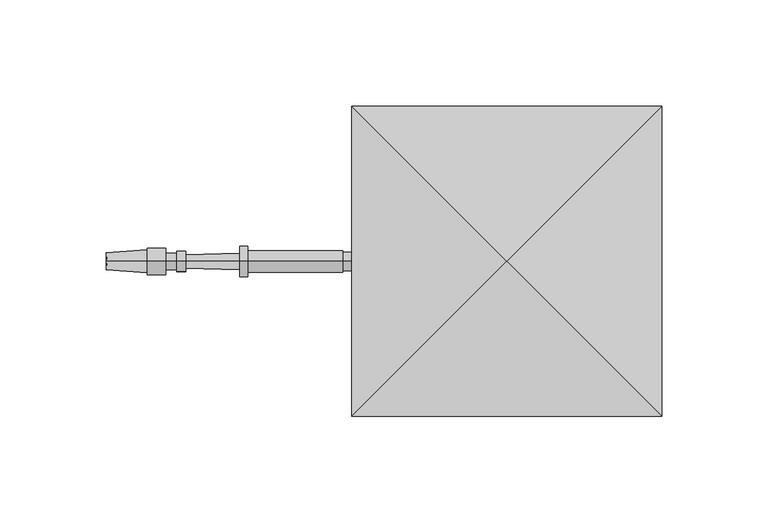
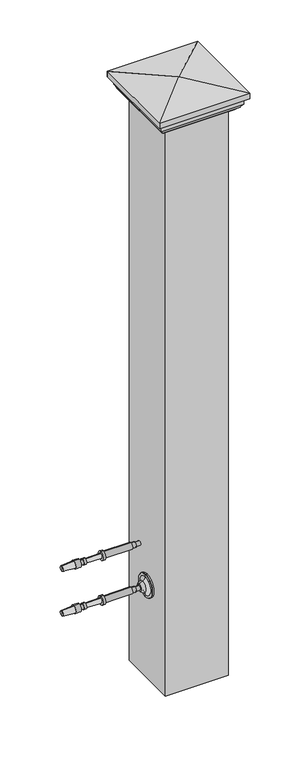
"""IFC4 building model written with IfcOpenShell, lengths in millimetres: railing geometry, RAILEASY CABLE RAILING CORNER TENSIONERS STAIR."""

from ifc_helpers import new_model, si_unit, point, frame, origin, place, context, project, spatial, polyline, circle_curve, ellipse_curve, trimmed, outline, extrude, source, transform, mapped, element, save
from ifc_brep_helpers import plane_surface, cylinder_surface, revolved_surface, advanced_brep


def railing_984af080(model_context):
    return source(origin(), model_context, "Body", "SolidModel", [
        advanced_brep(
        [(4032.408954, 16706.2866843, 32759.0282881), (4032.408954, 16706.2866843, 32762.6001631), (4032.408954, 16706.2866843, 32766.1720381), (3907.4650648, 16706.2866843, 32762.6001631), (3907.1694004, 16706.2866843, 32758.5757028), (3907.1694004, 16706.2866843, 32766.6246235), (3926.5127644, 16706.2866843, 32757.1546072), (3926.5127644, 16706.2866843, 32768.045719), (3926.5127644, 16706.2866843, 32756.2616385), (3926.5127644, 16706.2866843, 32768.9386877), (3935.1447956, 16706.2866843, 32756.2616385), (3935.1447956, 16706.2866843, 32768.9386877), (3935.1447956, 16706.2866843, 32758.6428885), (3935.1447956, 16706.2866843, 32766.5574377), (3940.5026081, 16706.2866843, 32758.6428885), (3940.5026081, 16706.2866843, 32766.5574377), (3940.5026081, 16706.2866843, 32757.8491385), (3940.5026081, 16706.2866843, 32767.3511877), (3944.5705769, 16706.2866843, 32757.8491385), (3944.5705769, 16706.2866843, 32767.3511877), (3944.614664, 16706.2866843, 32759.4360262), (3944.614664, 16706.2866843, 32765.7643), (3970.0048672, 16706.2866843, 32758.7306319), (3970.0048672, 16706.2866843, 32766.4696944), (3970.0048672, 16706.2866843, 32755.4564131), (3970.0048672, 16706.2866843, 32769.7439131), (3973.9736172, 16706.2866843, 32755.4564131), (3973.9736172, 16706.2866843, 32769.7439131), (3973.9736172, 16706.2866843, 32757.4407881), (3973.9736172, 16706.2866843, 32767.7595381), (4018.7212735, 16706.2866843, 32757.4407881), (4018.7212735, 16706.2866843, 32767.7595381), (4018.7212735, 16706.2866843, 32758.2345381), (4018.7212735, 16706.2866843, 32766.9657881), (4025.0712735, 16706.2866843, 32758.2345381), (4025.0712735, 16706.2866843, 32766.9657881), (4025.0712735, 16706.2866843, 32759.0282881), (4025.0712735, 16706.2866843, 32766.1720381)],
        [
            (0, 1),
            (1, 2),
            (2, 0, circle_curve(frame((4032.408954, 16706.2866843, 32762.6001631), z_axis=(1.0, 0.0, 0.0), x_axis=(0.0, 0.0, 1.0000000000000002)), 3.571875)),
            (0, 2, circle_curve(frame((4032.408954, 16706.2866843, 32762.6001631), z_axis=(1.0, 0.0, 0.0), x_axis=(0.0, 0.0, 1.0000000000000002)), 3.571875)),
            (3, 4),
            (4, 5, circle_curve(frame((3907.1694004, 16706.2866843, 32762.6001631), z_axis=(-1.0, 0.0, 0.0), x_axis=(0.0, 0.0, 1.0000000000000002)), 4.0244604)),
            (5, 3),
            (5, 4, circle_curve(frame((3907.1694004, 16706.2866843, 32762.6001631), z_axis=(-1.0, 0.0, 0.0), x_axis=(0.0, 0.0, 1.0000000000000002)), 4.0244604)),
            (4, 6),
            (6, 7, circle_curve(frame((3926.5127644, 16706.2866843, 32762.6001631), z_axis=(-1.0, 0.0, 0.0), x_axis=(0.0, 0.0, 1.0000000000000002)), 5.4455559)),
            (7, 5),
            (7, 6, circle_curve(frame((3926.5127644, 16706.2866843, 32762.6001631), z_axis=(-1.0, 0.0, 0.0), x_axis=(0.0, 0.0, 1.0000000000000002)), 5.4455559)),
            (6, 8),
            (8, 9, circle_curve(frame((3926.5127644, 16706.2866843, 32762.6001631), z_axis=(-1.0, 0.0, 0.0), x_axis=(0.0, 0.0, 1.0000000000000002)), 6.3385246)),
            (9, 7),
            (9, 8, circle_curve(frame((3926.5127644, 16706.2866843, 32762.6001631), z_axis=(-1.0, 0.0, 0.0), x_axis=(0.0, 0.0, 1.0000000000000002)), 6.3385246)),
            (8, 10),
            (10, 11, circle_curve(frame((3935.1447956, 16706.2866843, 32762.6001631), z_axis=(-1.0, 0.0, 0.0), x_axis=(0.0, 0.0, 1.0000000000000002)), 6.3385246)),
            (11, 9),
            (11, 10, circle_curve(frame((3935.1447956, 16706.2866843, 32762.6001631), z_axis=(-1.0, 0.0, 0.0), x_axis=(0.0, 0.0, 1.0000000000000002)), 6.3385246)),
            (10, 12),
            (12, 13, circle_curve(frame((3935.1447956, 16706.2866843, 32762.6001631), z_axis=(-1.0, 0.0, 0.0), x_axis=(0.0, 0.0, 1.0000000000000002)), 3.9572746)),
            (13, 11),
            (13, 12, circle_curve(frame((3935.1447956, 16706.2866843, 32762.6001631), z_axis=(-1.0, 0.0, 0.0), x_axis=(0.0, 0.0, 1.0000000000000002)), 3.9572746)),
            (12, 14),
            (14, 15, circle_curve(frame((3940.5026081, 16706.2866843, 32762.6001631), z_axis=(-1.0, 0.0, 0.0), x_axis=(0.0, 0.0, 1.0000000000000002)), 3.9572746)),
            (15, 13),
            (15, 14, circle_curve(frame((3940.5026081, 16706.2866843, 32762.6001631), z_axis=(-1.0, 0.0, 0.0), x_axis=(0.0, 0.0, 1.0000000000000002)), 3.9572746)),
            (14, 16),
            (16, 17, circle_curve(frame((3940.5026081, 16706.2866843, 32762.6001631), z_axis=(-1.0, 0.0, 0.0), x_axis=(0.0, 0.0, 1.0000000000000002)), 4.7510246)),
            (17, 15),
            (17, 16, circle_curve(frame((3940.5026081, 16706.2866843, 32762.6001631), z_axis=(-1.0, 0.0, 0.0), x_axis=(0.0, 0.0, 1.0000000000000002)), 4.7510246)),
            (16, 18),
            (18, 19, circle_curve(frame((3944.5705769, 16706.2866843, 32762.6001631), z_axis=(-1.0, 0.0, 0.0), x_axis=(0.0, 0.0, 1.0000000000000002)), 4.7510246)),
            (19, 17),
            (19, 18, circle_curve(frame((3944.5705769, 16706.2866843, 32762.6001631), z_axis=(-1.0, 0.0, 0.0), x_axis=(0.0, 0.0, 1.0000000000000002)), 4.7510246)),
            (18, 20),
            (20, 21, circle_curve(frame((3944.614664, 16706.2866843, 32762.6001631), z_axis=(-1.0, 0.0, 0.0), x_axis=(0.0, 0.0, 1.0000000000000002)), 3.1641369)),
            (21, 19),
            (21, 20, circle_curve(frame((3944.614664, 16706.2866843, 32762.6001631), z_axis=(-1.0, 0.0, 0.0), x_axis=(0.0, 0.0, 1.0000000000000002)), 3.1641369)),
            (20, 22),
            (22, 23, circle_curve(frame((3970.0048672, 16706.2866843, 32762.6001631), z_axis=(-1.0, 0.0, 0.0), x_axis=(0.0, 0.0, 1.0000000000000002)), 3.8695313)),
            (23, 21),
            (23, 22, circle_curve(frame((3970.0048672, 16706.2866843, 32762.6001631), z_axis=(-1.0, 0.0, 0.0), x_axis=(0.0, 0.0, 1.0000000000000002)), 3.8695313)),
            (22, 24),
            (24, 25, circle_curve(frame((3970.0048672, 16706.2866843, 32762.6001631), z_axis=(-1.0, 0.0, 0.0), x_axis=(0.0, 0.0, 1.0000000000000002)), 7.14375)),
            (25, 23),
            (25, 24, circle_curve(frame((3970.0048672, 16706.2866843, 32762.6001631), z_axis=(-1.0, 0.0, 0.0), x_axis=(0.0, 0.0, 1.0000000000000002)), 7.14375)),
            (24, 26),
            (26, 27, circle_curve(frame((3973.9736172, 16706.2866843, 32762.6001631), z_axis=(-1.0, 0.0, 0.0), x_axis=(0.0, 0.0, 1.0000000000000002)), 7.14375)),
            (27, 25),
            (27, 26, circle_curve(frame((3973.9736172, 16706.2866843, 32762.6001631), z_axis=(-1.0, 0.0, 0.0), x_axis=(0.0, 0.0, 1.0000000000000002)), 7.14375)),
            (26, 28),
            (28, 29, circle_curve(frame((3973.9736172, 16706.2866843, 32762.6001631), z_axis=(-1.0, 0.0, 0.0), x_axis=(0.0, 0.0, 1.0000000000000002)), 5.159375)),
            (29, 27),
            (29, 28, circle_curve(frame((3973.9736172, 16706.2866843, 32762.6001631), z_axis=(-1.0, 0.0, 0.0), x_axis=(0.0, 0.0, 1.0000000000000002)), 5.159375)),
            (28, 30),
            (30, 31, circle_curve(frame((4018.7212735, 16706.2866843, 32762.6001631), z_axis=(-1.0, 0.0, 0.0), x_axis=(0.0, 0.0, 1.0000000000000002)), 5.159375)),
            (31, 29),
            (31, 30, circle_curve(frame((4018.7212735, 16706.2866843, 32762.6001631), z_axis=(-1.0, 0.0, 0.0), x_axis=(0.0, 0.0, 1.0000000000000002)), 5.159375)),
            (30, 32),
            (32, 33, circle_curve(frame((4018.7212735, 16706.2866843, 32762.6001631), z_axis=(-1.0, 0.0, 0.0), x_axis=(0.0, 0.0, 1.0000000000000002)), 4.365625)),
            (33, 31),
            (33, 32, circle_curve(frame((4018.7212735, 16706.2866843, 32762.6001631), z_axis=(-1.0, 0.0, 0.0), x_axis=(0.0, 0.0, 1.0000000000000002)), 4.365625)),
            (32, 34),
            (34, 35, circle_curve(frame((4025.0712735, 16706.2866843, 32762.6001631), z_axis=(-1.0, 0.0, 0.0), x_axis=(0.0, 0.0, 1.0000000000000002)), 4.365625)),
            (35, 33),
            (35, 34, circle_curve(frame((4025.0712735, 16706.2866843, 32762.6001631), z_axis=(-1.0, 0.0, 0.0), x_axis=(0.0, 0.0, 1.0000000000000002)), 4.365625)),
            (34, 36),
            (36, 37, circle_curve(frame((4025.0712735, 16706.2866843, 32762.6001631), z_axis=(-1.0, 0.0, 0.0), x_axis=(0.0, 0.0, 1.0000000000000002)), 3.571875)),
            (37, 35),
            (37, 36, circle_curve(frame((4025.0712735, 16706.2866843, 32762.6001631), z_axis=(-1.0, 0.0, 0.0), x_axis=(0.0, 0.0, 1.0000000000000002)), 3.571875)),
            (36, 0),
            (2, 37),
        ],
        [
            plane_surface(frame((4032.408954, 16706.2866843, 32762.6001631), z_axis=(1.0, 0.0, 0.0), x_axis=(0.0, 0.0, 1.0))),
            revolved_surface(polyline([(3907.1694004, 16706.2866843, 32766.6246235), (3907.4650648, 16706.2866843, 32762.6001631)]), (3907.4650648, 16706.2866843, 32762.6001631), (-1.0, 0.0, 0.0)),
            revolved_surface(polyline([(3926.5127644, 16706.2866843, 32768.045719), (3907.1694004, 16706.2866843, 32766.6246235)]), (3907.4650648, 16706.2866843, 32762.6001631), (-1.0, 0.0, 0.0)),
            plane_surface(frame((3926.5127644, 16706.2866843, 32762.6001631), z_axis=(-1.0, 0.0, 0.0), x_axis=(0.0, 0.0, 1.0))),
            cylinder_surface(frame((3907.4650648, 16706.2866843, 32762.6001631), z_axis=(-1.0, 0.0, 0.0), x_axis=(0.0, 0.0, 1.0000000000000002)), 6.3385246),
            plane_surface(frame((3935.1447956, 16706.2866843, 32762.6001631), z_axis=(1.0, 0.0, 0.0), x_axis=(0.0, 0.0, 1.0))),
            cylinder_surface(frame((3907.4650648, 16706.2866843, 32762.6001631), z_axis=(-1.0, 0.0, 0.0), x_axis=(0.0, 0.0, 1.0000000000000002)), 3.9572746),
            plane_surface(frame((3940.5026081, 16706.2866843, 32762.6001631), z_axis=(-1.0, 0.0, 0.0), x_axis=(0.0, 0.0, 1.0))),
            cylinder_surface(frame((3907.4650648, 16706.2866843, 32762.6001631), z_axis=(-1.0, 0.0, 0.0), x_axis=(0.0, 0.0, 1.0000000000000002)), 4.7510246),
            plane_surface(frame((3944.614664, 16706.2866843, 32762.6001631), z_axis=(1.0, 0.0, 0.0), x_axis=(0.0, 0.0, 1.0))),
            revolved_surface(polyline([(3970.0048672, 16706.2866843, 32766.4696944), (3944.614664, 16706.2866843, 32765.7643)]), (3907.4650648, 16706.2866843, 32762.6001631), (-1.0, 0.0, 0.0)),
            plane_surface(frame((3970.0048672, 16706.2866843, 32762.6001631), z_axis=(-1.0, 0.0, 0.0), x_axis=(0.0, 0.0, 1.0))),
            cylinder_surface(frame((3907.4650648, 16706.2866843, 32762.6001631), z_axis=(-1.0, 0.0, 0.0), x_axis=(0.0, 0.0, 1.0000000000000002)), 7.14375),
            plane_surface(frame((3973.9736172, 16706.2866843, 32762.6001631), z_axis=(1.0, 0.0, 0.0), x_axis=(0.0, 0.0, 1.0))),
            cylinder_surface(frame((3907.4650648, 16706.2866843, 32762.6001631), z_axis=(-1.0, 0.0, 0.0), x_axis=(0.0, 0.0, 1.0000000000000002)), 5.159375),
            plane_surface(frame((4018.7212735, 16706.2866843, 32762.6001631), z_axis=(1.0, 0.0, 0.0), x_axis=(0.0, 0.0, 1.0))),
            cylinder_surface(frame((3907.4650648, 16706.2866843, 32762.6001631), z_axis=(-1.0, 0.0, 0.0), x_axis=(0.0, 0.0, 1.0000000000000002)), 4.365625),
            plane_surface(frame((4025.0712735, 16706.2866843, 32762.6001631), z_axis=(1.0, 0.0, 0.0), x_axis=(0.0, 0.0, 1.0))),
            cylinder_surface(frame((3907.4650648, 16706.2866843, 32762.6001631), z_axis=(-1.0, 0.0, 0.0), x_axis=(0.0, 0.0, 1.0000000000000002)), 3.571875),
        ],
        [
            (0, [[1, 2, 3]]),
            (0, [[-2, -1, 4]]),
            (1, [[5, 6, 7]]),
            (1, [[-7, 8, -5]]),
            (2, [[9, 10, 11, -6]]),
            (2, [[-11, 12, -9, -8]]),
            (3, [[13, 14, 15, -10]]),
            (3, [[-15, 16, -13, -12]]),
            (4, [[17, 18, 19, -14]]),
            (4, [[-19, 20, -17, -16]]),
            (5, [[21, 22, 23, -18]]),
            (5, [[-23, 24, -21, -20]]),
            (6, [[25, 26, 27, -22]]),
            (6, [[-27, 28, -25, -24]]),
            (7, [[29, 30, 31, -26]]),
            (7, [[-31, 32, -29, -28]]),
            (8, [[33, 34, 35, -30]]),
            (8, [[-35, 36, -33, -32]]),
            (9, [[37, 38, 39, -34]]),
            (9, [[-39, 40, -37, -36]]),
            (10, [[41, 42, 43, -38]]),
            (10, [[-43, 44, -41, -40]]),
            (11, [[45, 46, 47, -42]]),
            (11, [[-47, 48, -45, -44]]),
            (12, [[49, 50, 51, -46]]),
            (12, [[-51, 52, -49, -48]]),
            (13, [[53, 54, 55, -50]]),
            (13, [[-55, 56, -53, -52]]),
            (14, [[57, 58, 59, -54]]),
            (14, [[-59, 60, -57, -56]]),
            (15, [[61, 62, 63, -58]]),
            (15, [[-63, 64, -61, -60]]),
            (16, [[65, 66, 67, -62]]),
            (16, [[-67, 68, -65, -64]]),
            (17, [[69, 70, 71, -66]]),
            (17, [[-71, 72, -69, -68]]),
            (18, [[73, -3, 74, -70]]),
            (18, [[-74, -4, -73, -72]]),
        ],
    ),
        advanced_brep(
        [(4045.1015906, 16706.2866843, 32686.4001631), (4045.1015906, 16706.2866843, 32705.4501631), (4045.1015906, 16706.2866843, 32667.3501631), (4032.408954, 16706.2866843, 32680.8769785), (4032.408954, 16706.2866843, 32691.9233478), (4032.408954, 16706.2866843, 32686.4001631), (4037.6850504, 16706.2866843, 32677.2720381), (4037.6850504, 16706.2866843, 32695.5282881), (4042.0506754, 16706.2866843, 32671.6458254), (4042.0506754, 16706.2866843, 32701.1545009), (4042.0506754, 16706.2866843, 32667.7762941), (4042.0506754, 16706.2866843, 32705.0240321), (4042.7203406, 16706.2866843, 32667.3501631), (4042.7203406, 16706.2866843, 32705.4501631)],
        [
            (0, 1),
            (1, 2, circle_curve(frame((4045.1015906, 16706.2866843, 32686.4001631), z_axis=(1.0, 0.0, 0.0), x_axis=(0.0, 0.0, 1.0)), 19.05)),
            (2, 0),
            (2, 1, circle_curve(frame((4045.1015906, 16706.2866843, 32686.4001631), z_axis=(1.0, 0.0, 0.0), x_axis=(0.0, 0.0, 1.0)), 19.05)),
            (3, 4, circle_curve(frame((4032.408954, 16706.2866843, 32686.4001631), z_axis=(-1.0, 0.0, 0.0), x_axis=(0.0, 0.0, 1.0)), 5.5231846)),
            (4, 5),
            (5, 3),
            (4, 3, circle_curve(frame((4032.408954, 16706.2866843, 32686.4001631), z_axis=(-1.0, 0.0, 0.0), x_axis=(0.0, 0.0, 1.0)), 5.5231846)),
            (6, 7, circle_curve(frame((4037.6850504, 16706.2866843, 32686.4001631), z_axis=(-1.0, 0.0, 0.0), x_axis=(0.0, 0.0, 1.0)), 9.128125)),
            (7, 4, circle_curve(frame((4040.0094591, 16706.2866843, 32686.4628958), z_axis=(0.0, -1.0, 0.0), x_axis=(-1.0, 0.0, 0.0)), 9.3586438)),
            (3, 6, circle_curve(frame((4040.0094591, 16706.2866843, 32686.3374304), z_axis=(0.0, -1.0, 0.0), x_axis=(-1.0, 0.0, 0.0)), 9.3586438)),
            (7, 6, circle_curve(frame((4037.6850504, 16706.2866843, 32686.4001631), z_axis=(-1.0, 0.0, 0.0), x_axis=(0.0, 0.0, 1.0)), 9.128125)),
            (8, 9, circle_curve(frame((4042.0506754, 16706.2866843, 32686.4001631), z_axis=(-1.0, 0.0, 0.0), x_axis=(0.0, 0.0, 1.0)), 14.7543378)),
            (9, 7, circle_curve(frame((4036.2424634, 16706.2866843, 32701.1545009), z_axis=(0.0, 1.0, 0.0), x_axis=(-1.0, 0.0, 0.0)), 5.8082121)),
            (6, 8, circle_curve(frame((4036.2424634, 16706.2866843, 32671.6458254), z_axis=(0.0, 1.0, 0.0), x_axis=(-1.0, 0.0, 0.0)), 5.8082121)),
            (9, 8, circle_curve(frame((4042.0506754, 16706.2866843, 32686.4001631), z_axis=(-1.0, 0.0, 0.0), x_axis=(0.0, 0.0, 1.0)), 14.7543378)),
            (10, 11, circle_curve(frame((4042.0506754, 16706.2866843, 32686.4001631), z_axis=(-1.0, 0.0, 0.0), x_axis=(0.0, 0.0, 1.0)), 18.623869)),
            (11, 9),
            (8, 10),
            (11, 10, circle_curve(frame((4042.0506754, 16706.2866843, 32686.4001631), z_axis=(-1.0, 0.0, 0.0), x_axis=(0.0, 0.0, 1.0)), 18.623869)),
            (12, 13, circle_curve(frame((4042.7203406, 16706.2866843, 32686.4001631), z_axis=(-1.0, 0.0, 0.0), x_axis=(0.0, 0.0, 1.0)), 19.05)),
            (13, 11),
            (10, 12),
            (13, 12, circle_curve(frame((4042.7203406, 16706.2866843, 32686.4001631), z_axis=(-1.0, 0.0, 0.0), x_axis=(0.0, 0.0, 1.0)), 19.05)),
            (1, 13),
            (12, 2),
        ],
        [
            plane_surface(frame((4045.1015906, 16706.2866843, 32686.4001631), z_axis=(1.0, 0.0, 0.0), x_axis=(0.0, 0.0, 1.0))),
            plane_surface(frame((4032.408954, 16706.2866843, 32686.4001631), z_axis=(-1.0, 0.0, 0.0), x_axis=(0.0, 0.0, 1.0))),
            revolved_surface(trimmed(ellipse_curve(frame((4040.0094591, 16706.2866843, 32686.4628958), z_axis=(0.0, 1.0, 0.0), x_axis=(-1.0, 0.0, 0.0)), 9.3586438, 9.3586438), [point((4032.408954, 16706.2866843, 32691.9233478))], [point((4037.6850504, 16706.2866843, 32695.5282881))], True, "CARTESIAN"), (4045.1015906, 16706.2866843, 32686.4001631), (1.0, 0.0, 0.0)),
            revolved_surface(trimmed(ellipse_curve(frame((4036.2424634, 16706.2866843, 32701.1545009), z_axis=(0.0, -1.0, 0.0), x_axis=(-1.0, 0.0, 0.0)), 5.8082121, 5.8082121), [point((4037.6850504, 16706.2866843, 32695.5282881))], [point((4042.0506754, 16706.2866843, 32701.1545009))], True, "CARTESIAN"), (4045.1015906, 16706.2866843, 32686.4001631), (1.0, 0.0, 0.0)),
            plane_surface(frame((4042.0506754, 16706.2866843, 32686.4001631), z_axis=(-1.0, 0.0, 0.0), x_axis=(0.0, 0.0, 1.0))),
            revolved_surface(polyline([(4042.0506754, 16706.2866843, 32705.0240321), (4042.7203406, 16706.2866843, 32705.4501631)]), (4045.1015906, 16706.2866843, 32686.4001631), (1.0, 0.0, 0.0)),
            cylinder_surface(frame((4045.1015906, 16706.2866843, 32686.4001631), z_axis=(1.0, 0.0, 0.0), x_axis=(0.0, 0.0, 1.0)), 19.05),
        ],
        [
            (0, [[1, 2, 3]]),
            (0, [[-3, 4, -1]]),
            (1, [[5, 6, 7]]),
            (1, [[8, -7, -6]]),
            (2, [[9, 10, -5, 11]]),
            (2, [[12, -11, -8, -10]]),
            (3, [[13, 14, -9, 15]]),
            (3, [[16, -15, -12, -14]]),
            (4, [[17, 18, -13, 19]]),
            (4, [[20, -19, -16, -18]]),
            (5, [[21, 22, -17, 23]]),
            (5, [[24, -23, -20, -22]]),
            (6, [[-2, 25, -21, 26]]),
            (6, [[-4, -26, -24, -25]]),
        ],
    ),
        advanced_brep(
        [(4032.408954, 16706.2866843, 32682.8282881), (4032.408954, 16706.2866843, 32686.4001631), (4032.408954, 16706.2866843, 32689.9720381), (3907.4650648, 16706.2866843, 32686.4001631), (3907.1694004, 16706.2866843, 32682.3757028), (3907.1694004, 16706.2866843, 32690.4246235), (3926.5127644, 16706.2866843, 32680.9546072), (3926.5127644, 16706.2866843, 32691.845719), (3926.5127644, 16706.2866843, 32680.0616385), (3926.5127644, 16706.2866843, 32692.7386877), (3935.1447956, 16706.2866843, 32680.0616385), (3935.1447956, 16706.2866843, 32692.7386877), (3935.1447956, 16706.2866843, 32682.4428885), (3935.1447956, 16706.2866843, 32690.3574377), (3940.5026081, 16706.2866843, 32682.4428885), (3940.5026081, 16706.2866843, 32690.3574377), (3940.5026081, 16706.2866843, 32681.6491385), (3940.5026081, 16706.2866843, 32691.1511877), (3944.5705769, 16706.2866843, 32681.6491385), (3944.5705769, 16706.2866843, 32691.1511877), (3944.614664, 16706.2866843, 32683.2360262), (3944.614664, 16706.2866843, 32689.5643), (3970.0048672, 16706.2866843, 32682.5306319), (3970.0048672, 16706.2866843, 32690.2696944), (3970.0048672, 16706.2866843, 32679.2564131), (3970.0048672, 16706.2866843, 32693.5439131), (3973.9736172, 16706.2866843, 32679.2564131), (3973.9736172, 16706.2866843, 32693.5439131), (3973.9736172, 16706.2866843, 32681.2407881), (3973.9736172, 16706.2866843, 32691.5595381), (4018.7212735, 16706.2866843, 32681.2407881), (4018.7212735, 16706.2866843, 32691.5595381), (4018.7212735, 16706.2866843, 32682.0345381), (4018.7212735, 16706.2866843, 32690.7657881), (4025.0712735, 16706.2866843, 32682.0345381), (4025.0712735, 16706.2866843, 32690.7657881), (4025.0712735, 16706.2866843, 32682.8282881), (4025.0712735, 16706.2866843, 32689.9720381)],
        [
            (0, 1),
            (1, 2),
            (2, 0, circle_curve(frame((4032.408954, 16706.2866843, 32686.4001631), z_axis=(1.0, 0.0, 0.0), x_axis=(0.0, 0.0, 1.0000000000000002)), 3.571875)),
            (0, 2, circle_curve(frame((4032.408954, 16706.2866843, 32686.4001631), z_axis=(1.0, 0.0, 0.0), x_axis=(0.0, 0.0, 1.0000000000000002)), 3.571875)),
            (3, 4),
            (4, 5, circle_curve(frame((3907.1694004, 16706.2866843, 32686.4001631), z_axis=(-1.0, 0.0, 0.0), x_axis=(0.0, 0.0, 1.0000000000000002)), 4.0244604)),
            (5, 3),
            (5, 4, circle_curve(frame((3907.1694004, 16706.2866843, 32686.4001631), z_axis=(-1.0, 0.0, 0.0), x_axis=(0.0, 0.0, 1.0000000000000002)), 4.0244604)),
            (4, 6),
            (6, 7, circle_curve(frame((3926.5127644, 16706.2866843, 32686.4001631), z_axis=(-1.0, 0.0, 0.0), x_axis=(0.0, 0.0, 1.0000000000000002)), 5.4455559)),
            (7, 5),
            (7, 6, circle_curve(frame((3926.5127644, 16706.2866843, 32686.4001631), z_axis=(-1.0, 0.0, 0.0), x_axis=(0.0, 0.0, 1.0000000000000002)), 5.4455559)),
            (6, 8),
            (8, 9, circle_curve(frame((3926.5127644, 16706.2866843, 32686.4001631), z_axis=(-1.0, 0.0, 0.0), x_axis=(0.0, 0.0, 1.0000000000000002)), 6.3385246)),
            (9, 7),
            (9, 8, circle_curve(frame((3926.5127644, 16706.2866843, 32686.4001631), z_axis=(-1.0, 0.0, 0.0), x_axis=(0.0, 0.0, 1.0000000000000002)), 6.3385246)),
            (8, 10),
            (10, 11, circle_curve(frame((3935.1447956, 16706.2866843, 32686.4001631), z_axis=(-1.0, 0.0, 0.0), x_axis=(0.0, 0.0, 1.0000000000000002)), 6.3385246)),
            (11, 9),
            (11, 10, circle_curve(frame((3935.1447956, 16706.2866843, 32686.4001631), z_axis=(-1.0, 0.0, 0.0), x_axis=(0.0, 0.0, 1.0000000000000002)), 6.3385246)),
            (10, 12),
            (12, 13, circle_curve(frame((3935.1447956, 16706.2866843, 32686.4001631), z_axis=(-1.0, 0.0, 0.0), x_axis=(0.0, 0.0, 1.0000000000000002)), 3.9572746)),
            (13, 11),
            (13, 12, circle_curve(frame((3935.1447956, 16706.2866843, 32686.4001631), z_axis=(-1.0, 0.0, 0.0), x_axis=(0.0, 0.0, 1.0000000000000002)), 3.9572746)),
            (12, 14),
            (14, 15, circle_curve(frame((3940.5026081, 16706.2866843, 32686.4001631), z_axis=(-1.0, 0.0, 0.0), x_axis=(0.0, 0.0, 1.0000000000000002)), 3.9572746)),
            (15, 13),
            (15, 14, circle_curve(frame((3940.5026081, 16706.2866843, 32686.4001631), z_axis=(-1.0, 0.0, 0.0), x_axis=(0.0, 0.0, 1.0000000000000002)), 3.9572746)),
            (14, 16),
            (16, 17, circle_curve(frame((3940.5026081, 16706.2866843, 32686.4001631), z_axis=(-1.0, 0.0, 0.0), x_axis=(0.0, 0.0, 1.0000000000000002)), 4.7510246)),
            (17, 15),
            (17, 16, circle_curve(frame((3940.5026081, 16706.2866843, 32686.4001631), z_axis=(-1.0, 0.0, 0.0), x_axis=(0.0, 0.0, 1.0000000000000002)), 4.7510246)),
            (16, 18),
            (18, 19, circle_curve(frame((3944.5705769, 16706.2866843, 32686.4001631), z_axis=(-1.0, 0.0, 0.0), x_axis=(0.0, 0.0, 1.0000000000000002)), 4.7510246)),
            (19, 17),
            (19, 18, circle_curve(frame((3944.5705769, 16706.2866843, 32686.4001631), z_axis=(-1.0, 0.0, 0.0), x_axis=(0.0, 0.0, 1.0000000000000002)), 4.7510246)),
            (18, 20),
            (20, 21, circle_curve(frame((3944.614664, 16706.2866843, 32686.4001631), z_axis=(-1.0, 0.0, 0.0), x_axis=(0.0, 0.0, 1.0000000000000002)), 3.1641369)),
            (21, 19),
            (21, 20, circle_curve(frame((3944.614664, 16706.2866843, 32686.4001631), z_axis=(-1.0, 0.0, 0.0), x_axis=(0.0, 0.0, 1.0000000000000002)), 3.1641369)),
            (20, 22),
            (22, 23, circle_curve(frame((3970.0048672, 16706.2866843, 32686.4001631), z_axis=(-1.0, 0.0, 0.0), x_axis=(0.0, 0.0, 1.0000000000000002)), 3.8695313)),
            (23, 21),
            (23, 22, circle_curve(frame((3970.0048672, 16706.2866843, 32686.4001631), z_axis=(-1.0, 0.0, 0.0), x_axis=(0.0, 0.0, 1.0000000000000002)), 3.8695313)),
            (22, 24),
            (24, 25, circle_curve(frame((3970.0048672, 16706.2866843, 32686.4001631), z_axis=(-1.0, 0.0, 0.0), x_axis=(0.0, 0.0, 1.0000000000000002)), 7.14375)),
            (25, 23),
            (25, 24, circle_curve(frame((3970.0048672, 16706.2866843, 32686.4001631), z_axis=(-1.0, 0.0, 0.0), x_axis=(0.0, 0.0, 1.0000000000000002)), 7.14375)),
            (24, 26),
            (26, 27, circle_curve(frame((3973.9736172, 16706.2866843, 32686.4001631), z_axis=(-1.0, 0.0, 0.0), x_axis=(0.0, 0.0, 1.0000000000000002)), 7.14375)),
            (27, 25),
            (27, 26, circle_curve(frame((3973.9736172, 16706.2866843, 32686.4001631), z_axis=(-1.0, 0.0, 0.0), x_axis=(0.0, 0.0, 1.0000000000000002)), 7.14375)),
            (26, 28),
            (28, 29, circle_curve(frame((3973.9736172, 16706.2866843, 32686.4001631), z_axis=(-1.0, 0.0, 0.0), x_axis=(0.0, 0.0, 1.0000000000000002)), 5.159375)),
            (29, 27),
            (29, 28, circle_curve(frame((3973.9736172, 16706.2866843, 32686.4001631), z_axis=(-1.0, 0.0, 0.0), x_axis=(0.0, 0.0, 1.0000000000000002)), 5.159375)),
            (28, 30),
            (30, 31, circle_curve(frame((4018.7212735, 16706.2866843, 32686.4001631), z_axis=(-1.0, 0.0, 0.0), x_axis=(0.0, 0.0, 1.0000000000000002)), 5.159375)),
            (31, 29),
            (31, 30, circle_curve(frame((4018.7212735, 16706.2866843, 32686.4001631), z_axis=(-1.0, 0.0, 0.0), x_axis=(0.0, 0.0, 1.0000000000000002)), 5.159375)),
            (30, 32),
            (32, 33, circle_curve(frame((4018.7212735, 16706.2866843, 32686.4001631), z_axis=(-1.0, 0.0, 0.0), x_axis=(0.0, 0.0, 1.0000000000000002)), 4.365625)),
            (33, 31),
            (33, 32, circle_curve(frame((4018.7212735, 16706.2866843, 32686.4001631), z_axis=(-1.0, 0.0, 0.0), x_axis=(0.0, 0.0, 1.0000000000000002)), 4.365625)),
            (32, 34),
            (34, 35, circle_curve(frame((4025.0712735, 16706.2866843, 32686.4001631), z_axis=(-1.0, 0.0, 0.0), x_axis=(0.0, 0.0, 1.0000000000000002)), 4.365625)),
            (35, 33),
            (35, 34, circle_curve(frame((4025.0712735, 16706.2866843, 32686.4001631), z_axis=(-1.0, 0.0, 0.0), x_axis=(0.0, 0.0, 1.0000000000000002)), 4.365625)),
            (34, 36),
            (36, 37, circle_curve(frame((4025.0712735, 16706.2866843, 32686.4001631), z_axis=(-1.0, 0.0, 0.0), x_axis=(0.0, 0.0, 1.0000000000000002)), 3.571875)),
            (37, 35),
            (37, 36, circle_curve(frame((4025.0712735, 16706.2866843, 32686.4001631), z_axis=(-1.0, 0.0, 0.0), x_axis=(0.0, 0.0, 1.0000000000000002)), 3.571875)),
            (36, 0),
            (2, 37),
        ],
        [
            plane_surface(frame((4032.408954, 16706.2866843, 32686.4001631), z_axis=(1.0, 0.0, 0.0), x_axis=(0.0, 0.0, 1.0))),
            revolved_surface(polyline([(3907.1694004, 16706.2866843, 32690.4246235), (3907.4650648, 16706.2866843, 32686.4001631)]), (3907.4650648, 16706.2866843, 32686.4001631), (-1.0, 0.0, 0.0)),
            revolved_surface(polyline([(3926.5127644, 16706.2866843, 32691.845719), (3907.1694004, 16706.2866843, 32690.4246235)]), (3907.4650648, 16706.2866843, 32686.4001631), (-1.0, 0.0, 0.0)),
            plane_surface(frame((3926.5127644, 16706.2866843, 32686.4001631), z_axis=(-1.0, 0.0, 0.0), x_axis=(0.0, 0.0, 1.0))),
            cylinder_surface(frame((3907.4650648, 16706.2866843, 32686.4001631), z_axis=(-1.0, 0.0, 0.0), x_axis=(0.0, 0.0, 1.0000000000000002)), 6.3385246),
            plane_surface(frame((3935.1447956, 16706.2866843, 32686.4001631), z_axis=(1.0, 0.0, 0.0), x_axis=(0.0, 0.0, 1.0))),
            cylinder_surface(frame((3907.4650648, 16706.2866843, 32686.4001631), z_axis=(-1.0, 0.0, 0.0), x_axis=(0.0, 0.0, 1.0000000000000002)), 3.9572746),
            plane_surface(frame((3940.5026081, 16706.2866843, 32686.4001631), z_axis=(-1.0, 0.0, 0.0), x_axis=(0.0, 0.0, 1.0))),
            cylinder_surface(frame((3907.4650648, 16706.2866843, 32686.4001631), z_axis=(-1.0, 0.0, 0.0), x_axis=(0.0, 0.0, 1.0000000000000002)), 4.7510246),
            plane_surface(frame((3944.614664, 16706.2866843, 32686.4001631), z_axis=(1.0, 0.0, 0.0), x_axis=(0.0, 0.0, 1.0))),
            revolved_surface(polyline([(3970.0048672, 16706.2866843, 32690.2696944), (3944.614664, 16706.2866843, 32689.5643)]), (3907.4650648, 16706.2866843, 32686.4001631), (-1.0, 0.0, 0.0)),
            plane_surface(frame((3970.0048672, 16706.2866843, 32686.4001631), z_axis=(-1.0, 0.0, 0.0), x_axis=(0.0, 0.0, 1.0))),
            cylinder_surface(frame((3907.4650648, 16706.2866843, 32686.4001631), z_axis=(-1.0, 0.0, 0.0), x_axis=(0.0, 0.0, 1.0000000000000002)), 7.14375),
            plane_surface(frame((3973.9736172, 16706.2866843, 32686.4001631), z_axis=(1.0, 0.0, 0.0), x_axis=(0.0, 0.0, 1.0))),
            cylinder_surface(frame((3907.4650648, 16706.2866843, 32686.4001631), z_axis=(-1.0, 0.0, 0.0), x_axis=(0.0, 0.0, 1.0000000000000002)), 5.159375),
            plane_surface(frame((4018.7212735, 16706.2866843, 32686.4001631), z_axis=(1.0, 0.0, 0.0), x_axis=(0.0, 0.0, 1.0))),
            cylinder_surface(frame((3907.4650648, 16706.2866843, 32686.4001631), z_axis=(-1.0, 0.0, 0.0), x_axis=(0.0, 0.0, 1.0000000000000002)), 4.365625),
            plane_surface(frame((4025.0712735, 16706.2866843, 32686.4001631), z_axis=(1.0, 0.0, 0.0), x_axis=(0.0, 0.0, 1.0))),
            cylinder_surface(frame((3907.4650648, 16706.2866843, 32686.4001631), z_axis=(-1.0, 0.0, 0.0), x_axis=(0.0, 0.0, 1.0000000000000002)), 3.571875),
        ],
        [
            (0, [[1, 2, 3]]),
            (0, [[-2, -1, 4]]),
            (1, [[5, 6, 7]]),
            (1, [[-7, 8, -5]]),
            (2, [[9, 10, 11, -6]]),
            (2, [[-11, 12, -9, -8]]),
            (3, [[13, 14, 15, -10]]),
            (3, [[-15, 16, -13, -12]]),
            (4, [[17, 18, 19, -14]]),
            (4, [[-19, 20, -17, -16]]),
            (5, [[21, 22, 23, -18]]),
            (5, [[-23, 24, -21, -20]]),
            (6, [[25, 26, 27, -22]]),
            (6, [[-27, 28, -25, -24]]),
            (7, [[29, 30, 31, -26]]),
            (7, [[-31, 32, -29, -28]]),
            (8, [[33, 34, 35, -30]]),
            (8, [[-35, 36, -33, -32]]),
            (9, [[37, 38, 39, -34]]),
            (9, [[-39, 40, -37, -36]]),
            (10, [[41, 42, 43, -38]]),
            (10, [[-43, 44, -41, -40]]),
            (11, [[45, 46, 47, -42]]),
            (11, [[-47, 48, -45, -44]]),
            (12, [[49, 50, 51, -46]]),
            (12, [[-51, 52, -49, -48]]),
            (13, [[53, 54, 55, -50]]),
            (13, [[-55, 56, -53, -52]]),
            (14, [[57, 58, 59, -54]]),
            (14, [[-59, 60, -57, -56]]),
            (15, [[61, 62, 63, -58]]),
            (15, [[-63, 64, -61, -60]]),
            (16, [[65, 66, 67, -62]]),
            (16, [[-67, 68, -65, -64]]),
            (17, [[69, 70, 71, -66]]),
            (17, [[-71, 72, -69, -68]]),
            (18, [[73, -3, 74, -70]]),
            (18, [[-74, -4, -73, -72]]),
        ],
    ),
        extrude(outline(polyline([(4146.7188898, 16655.4866843), (4045.1188898, 16655.4866843), (4045.1188898, 16757.0866843), (4146.7188898, 16757.0866843), (4146.7188898, 16655.4866843)])), frame((0.0, 0.0, 32527.3789062), z_axis=(0.0, 0.0, 1.0), x_axis=(1.0, 0.0, 0.0)), (0.0, 0.0, 1.0), 965.2),
        advanced_brep(
        [(4168.9438898, 16779.3116843, 33527.5039062), (4022.8938898, 16779.3116843, 33527.5039062), (4095.9188898, 16706.2866843, 33537.0289063), (4168.9438898, 16779.3116843, 33517.9789062), (4022.8938898, 16779.3116843, 33517.9789062), (4162.5938898, 16772.9616843, 33517.9789062), (4029.2438898, 16772.9616843, 33517.9789062), (4162.5938898, 16772.9616843, 33506.8203026), (4029.2438898, 16772.9616843, 33506.8203026), (4158.922796, 16769.2905905, 33500.5164062), (4032.9149835, 16769.2905905, 33500.5164062), (4155.747796, 16766.1155905, 33500.5164062), (4036.0899835, 16766.1155905, 33500.5164062), (4149.397796, 16759.7655905, 33494.1664062), (4042.4399835, 16759.7655905, 33494.1664062), (4149.397796, 16759.7655905, 33492.5789063), (4042.4399835, 16759.7655905, 33492.5789063), (4095.9188898, 16706.2866843, 33492.5789063)],
        [
            (0, 1),
            (1, 2),
            (2, 0),
            (3, 4),
            (4, 1),
            (0, 3),
            (5, 6),
            (6, 4),
            (3, 5),
            (7, 8),
            (8, 6),
            (5, 7),
            (9, 10),
            (10, 8, ellipse_curve(frame((4020.2149835, 16781.9905905, 33497.3414063), z_axis=(-0.7071067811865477, -0.7071067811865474, 0.0), x_axis=(0.7071067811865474, -0.7071067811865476, 0.0)), 18.5132723, 13.0908604)),
            (7, 9, ellipse_curve(frame((4171.622796, 16781.9905905, 33497.3414063), z_axis=(0.7071067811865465, -0.7071067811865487, 0.0), x_axis=(0.7071067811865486, 0.7071067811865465, 0.0)), 18.5132723, 13.0908604)),
            (11, 12),
            (12, 10),
            (9, 11),
            (13, 14),
            (14, 12, ellipse_curve(frame((4042.4399835, 16759.7655905, 33500.5164062), z_axis=(0.7071067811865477, 0.7071067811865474, 0.0), x_axis=(-0.7071067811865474, 0.7071067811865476, 0.0)), 8.9802561, 6.35)),
            (11, 13, ellipse_curve(frame((4149.397796, 16759.7655905, 33500.5164062), z_axis=(-0.7071067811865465, 0.7071067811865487, 0.0), x_axis=(-0.7071067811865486, -0.7071067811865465, 0.0)), 8.9802561, 6.35)),
            (15, 16),
            (16, 14),
            (13, 15),
            (17, 16),
            (15, 17),
            (2, 17),
        ],
        [
            plane_surface(frame((3978.7171811, 16779.3116843, 33527.5039062), z_axis=(0.0, 0.12933918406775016, 0.9916004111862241), x_axis=(1.0, 0.0, 0.0))),
            plane_surface(frame((3978.7171811, 16779.3116843, 33517.9789062), z_axis=(0.0, 1.0, 0.0), x_axis=(1.0, 0.0, 0.0))),
            plane_surface(frame((3978.7171811, 16772.9616843, 33517.9789062), z_axis=(0.0, 0.0, -1.0), x_axis=(1.0, 0.0, 0.0))),
            plane_surface(frame((3978.7171811, 16772.9616843, 33506.8203026), z_axis=(0.0, 1.0, 0.0), x_axis=(1.0, 0.0, 0.0))),
            revolved_surface(polyline([(4184.713656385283, 16768.8997301, 33497.3414063), (4007.124123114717, 16768.8997301, 33497.3414063)]), (4205.2124692, 16781.9905905, 33497.3414063), (1.0, 0.0, 0.0)),
            plane_surface(frame((3978.7171811, 16766.1155905, 33500.5164062), z_axis=(0.0, 0.0, -1.0), x_axis=(1.0, 0.0, 0.0))),
            cylinder_surface(frame((4205.2124692, 16759.7655905, 33500.5164062), z_axis=(-1.0, 0.0, 0.0), x_axis=(0.0, -1.0, 0.0)), 6.35),
            plane_surface(frame((3978.7171811, 16759.7655905, 33492.5789063), z_axis=(0.0, 1.0, 0.0), x_axis=(1.0, 0.0, 0.0))),
            plane_surface(frame((3978.7171811, 16706.2866843, 33492.5789063), z_axis=(0.0, 0.0, -1.0), x_axis=(1.0, 0.0, 0.0))),
            plane_surface(frame((4095.9188898, 16706.2866843, 33721.1789063), z_axis=(0.7071067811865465, -0.7071067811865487, 0.0), x_axis=(0.0, 0.0, -1.0))),
            plane_surface(frame((3962.5688898, 16839.6366843, 33721.1789063), z_axis=(-0.7071067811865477, -0.7071067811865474, 0.0), x_axis=(0.0, 0.0, -1.0))),
        ],
        [
            (0, [[1, 2, 3]]),
            (1, [[4, 5, -1, 6]]),
            (2, [[7, 8, -4, 9]]),
            (3, [[10, 11, -7, 12]]),
            (4, [[13, 14, -10, 15]]),
            (5, [[16, 17, -13, 18]]),
            (6, [[19, 20, -16, 21]]),
            (7, [[22, 23, -19, 24]]),
            (8, [[25, -22, 26]]),
            (9, [[27, -26, -24, -21, -18, -15, -12, -9, -6, -3]]),
            (10, [[-5, -8, -11, -14, -17, -20, -23, -25, -27, -2]]),
        ],
    ),
        advanced_brep(
        [(4095.9188898, 16706.2866843, 33537.0289063), (4022.8938898, 16633.2616843, 33527.5039062), (4168.9438898, 16633.2616843, 33527.5039062), (4022.8938898, 16633.2616843, 33517.9789062), (4168.9438898, 16633.2616843, 33517.9789062), (4029.2438898, 16639.6116843, 33517.9789062), (4162.5938898, 16639.6116843, 33517.9789062), (4029.2438898, 16639.6116843, 33506.8203026), (4162.5938898, 16639.6116843, 33506.8203026), (4032.9149835, 16643.282778, 33500.5164062), (4158.922796, 16643.282778, 33500.5164062), (4036.0899835, 16646.457778, 33500.5164062), (4155.747796, 16646.457778, 33500.5164062), (4042.4399835, 16652.807778, 33494.1664062), (4149.397796, 16652.807778, 33494.1664062), (4042.4399835, 16652.807778, 33492.5789063), (4149.397796, 16652.807778, 33492.5789063), (4095.9188898, 16706.2866843, 33492.5789063)],
        [
            (0, 1),
            (1, 2),
            (2, 0),
            (1, 3),
            (3, 4),
            (4, 2),
            (3, 5),
            (5, 6),
            (6, 4),
            (5, 7),
            (7, 8),
            (8, 6),
            (7, 9, ellipse_curve(frame((4020.2149835, 16630.582778, 33497.3414063), z_axis=(-0.7071067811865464, 0.7071067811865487, 0.0), x_axis=(0.7071067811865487, 0.7071067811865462, 0.0)), 18.5132723, 13.0908604)),
            (9, 10),
            (10, 8, ellipse_curve(frame((4171.622796, 16630.582778, 33497.3414063), z_axis=(0.7071067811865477, 0.7071067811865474, 0.0), x_axis=(0.7071067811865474, -0.7071067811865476, 0.0)), 18.5132723, 13.0908604)),
            (9, 11),
            (11, 12),
            (12, 10),
            (11, 13, ellipse_curve(frame((4042.4399835, 16652.807778, 33500.5164062), z_axis=(0.7071067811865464, -0.7071067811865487, 0.0), x_axis=(-0.7071067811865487, -0.7071067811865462, 0.0)), 8.9802561, 6.35)),
            (13, 14),
            (14, 12, ellipse_curve(frame((4149.397796, 16652.807778, 33500.5164062), z_axis=(-0.7071067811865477, -0.7071067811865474, 0.0), x_axis=(-0.7071067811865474, 0.7071067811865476, 0.0)), 8.9802561, 6.35)),
            (13, 15),
            (15, 16),
            (16, 14),
            (15, 17),
            (17, 16),
            (17, 0),
        ],
        [
            plane_surface(frame((3978.7171811, 16706.2866843, 33537.0289063), z_axis=(0.0, -0.12933918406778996, 0.9916004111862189), x_axis=(1.0, 0.0, 0.0))),
            plane_surface(frame((3978.7171811, 16633.2616843, 33527.5039062), z_axis=(0.0, -1.0, 0.0), x_axis=(1.0, 0.0, 0.0))),
            plane_surface(frame((3978.7171811, 16633.2616843, 33517.9789062), z_axis=(0.0, 0.0, -1.0), x_axis=(1.0, 0.0, 0.0))),
            plane_surface(frame((3978.7171811, 16639.6116843, 33517.9789062), z_axis=(0.0, -1.0, 0.0), x_axis=(1.0, 0.0, 0.0))),
            revolved_surface(polyline([(4184.713656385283, 16643.6736384, 33497.3414063), (4007.124123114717, 16643.6736384, 33497.3414063)]), (4205.2124692, 16630.582778, 33497.3414063), (1.0, 0.0, 0.0)),
            plane_surface(frame((3978.7171811, 16643.282778, 33500.5164062), z_axis=(0.0, 0.0, -1.0), x_axis=(1.0, 0.0, 0.0))),
            cylinder_surface(frame((4205.2124692, 16652.807778, 33500.5164062), z_axis=(-1.0, 0.0, 0.0), x_axis=(0.0, 1.0, 0.0)), 6.35),
            plane_surface(frame((3978.7171811, 16652.807778, 33494.1664062), z_axis=(0.0, -1.0, 0.0), x_axis=(1.0, 0.0, 0.0))),
            plane_surface(frame((3978.7171811, 16652.807778, 33492.5789063), z_axis=(0.0, 0.0, -1.0), x_axis=(1.0, 0.0, 0.0))),
            plane_surface(frame((4205.2124692, 16596.9931049, 33721.1789063), z_axis=(0.7071067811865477, 0.7071067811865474, 0.0), x_axis=(0.0, 0.0, -1.0))),
            plane_surface(frame((4095.9188898, 16706.2866843, 33721.1789063), z_axis=(-0.7071067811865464, 0.7071067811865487, 0.0), x_axis=(0.0, 0.0, -1.0))),
        ],
        [
            (0, [[1, 2, 3]]),
            (1, [[-2, 4, 5, 6]]),
            (2, [[-5, 7, 8, 9]]),
            (3, [[-8, 10, 11, 12]]),
            (4, [[-11, 13, 14, 15]]),
            (5, [[-14, 16, 17, 18]]),
            (6, [[-17, 19, 20, 21]]),
            (7, [[-20, 22, 23, 24]]),
            (8, [[-23, 25, 26]]),
            (9, [[-6, -9, -12, -15, -18, -21, -24, -26, 27, -3]]),
            (10, [[-27, -25, -22, -19, -16, -13, -10, -7, -4, -1]]),
        ],
    ),
        advanced_brep(
        [(4095.9188898, 16706.2866843, 33537.0289063), (4168.9438898, 16633.2616843, 33527.5039062), (4168.9438898, 16779.3116843, 33527.5039062), (4168.9438898, 16633.2616843, 33517.9789062), (4168.9438898, 16779.3116843, 33517.9789062), (4162.5938898, 16639.6116843, 33517.9789062), (4162.5938898, 16772.9616843, 33517.9789062), (4162.5938898, 16639.6116843, 33506.8203026), (4162.5938898, 16772.9616843, 33506.8203026), (4158.922796, 16643.282778, 33500.5164062), (4158.922796, 16769.2905905, 33500.5164062), (4155.747796, 16646.457778, 33500.5164062), (4155.747796, 16766.1155905, 33500.5164062), (4149.397796, 16652.807778, 33494.1664062), (4149.397796, 16759.7655905, 33494.1664062), (4149.397796, 16652.807778, 33492.5789063), (4149.397796, 16759.7655905, 33492.5789063), (4095.9188898, 16706.2866843, 33492.5789063)],
        [
            (0, 1),
            (1, 2),
            (2, 0),
            (1, 3),
            (3, 4),
            (4, 2),
            (3, 5),
            (5, 6),
            (6, 4),
            (5, 7),
            (7, 8),
            (8, 6),
            (7, 9, ellipse_curve(frame((4171.622796, 16630.582778, 33497.3414063), z_axis=(-0.7071067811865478, -0.7071067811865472, 0.0), x_axis=(0.7071067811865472, -0.7071067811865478, 0.0)), 18.5132723, 13.0908604)),
            (9, 10),
            (10, 8, ellipse_curve(frame((4171.622796, 16781.9905905, 33497.3414063), z_axis=(-0.7071067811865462, 0.7071067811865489, 0.0), x_axis=(-0.7071067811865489, -0.707106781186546, 0.0)), 18.5132723, 13.0908604)),
            (9, 11),
            (11, 12),
            (12, 10),
            (11, 13, ellipse_curve(frame((4149.397796, 16652.807778, 33500.5164062), z_axis=(0.7071067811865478, 0.7071067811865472, 0.0), x_axis=(-0.7071067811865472, 0.7071067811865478, 0.0)), 8.9802561, 6.35)),
            (13, 14),
            (14, 12, ellipse_curve(frame((4149.397796, 16759.7655905, 33500.5164062), z_axis=(0.7071067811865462, -0.7071067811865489, 0.0), x_axis=(0.7071067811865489, 0.707106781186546, 0.0)), 8.9802561, 6.35)),
            (13, 15),
            (15, 16),
            (16, 14),
            (15, 17),
            (17, 16),
            (17, 0),
        ],
        [
            plane_surface(frame((4168.9438898, 16823.488393, 33527.5039062), z_axis=(0.1293391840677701, 0.0, 0.9916004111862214), x_axis=(0.0, -1.0, 0.0))),
            plane_surface(frame((4168.9438898, 16823.488393, 33517.9789062), z_axis=(1.0, 0.0, 0.0), x_axis=(0.0, -1.0, 0.0))),
            plane_surface(frame((4162.5938898, 16823.488393, 33517.9789062), z_axis=(0.0, 0.0, -1.0), x_axis=(0.0, -1.0, 0.0))),
            plane_surface(frame((4162.5938898, 16823.488393, 33506.8203026), z_axis=(1.0, 0.0, 0.0), x_axis=(0.0, -1.0, 0.0))),
            revolved_surface(polyline([(4158.5319356, 16617.491917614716, 33497.3414063), (4158.5319356, 16795.081450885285, 33497.3414063)]), (4171.622796, 16596.9931049, 33497.3414063), (0.0, -1.0, 0.0)),
            plane_surface(frame((4155.747796, 16823.488393, 33500.5164062), z_axis=(0.0, 0.0, -1.0), x_axis=(0.0, -1.0, 0.0))),
            cylinder_surface(frame((4149.397796, 16596.9931049, 33500.5164062), z_axis=(0.0, 1.0, 0.0), x_axis=(-1.0, 0.0, 0.0)), 6.35),
            plane_surface(frame((4149.397796, 16823.488393, 33492.5789063), z_axis=(1.0, 0.0, 0.0), x_axis=(0.0, -1.0, 0.0))),
            plane_surface(frame((4095.9188898, 16823.488393, 33492.5789063), z_axis=(0.0, 0.0, -1.0), x_axis=(0.0, -1.0, 0.0))),
            plane_surface(frame((4213.1205985, 16823.488393, 33721.1789063), z_axis=(-0.7071067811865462, 0.7071067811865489, 0.0), x_axis=(0.0, 0.0, -1.0))),
            plane_surface(frame((4095.9188898, 16706.2866843, 33721.1789063), z_axis=(-0.7071067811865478, -0.7071067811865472, 0.0), x_axis=(0.0, 0.0, -1.0))),
        ],
        [
            (0, [[1, 2, 3]]),
            (1, [[-2, 4, 5, 6]]),
            (2, [[-5, 7, 8, 9]]),
            (3, [[-8, 10, 11, 12]]),
            (4, [[-11, 13, 14, 15]]),
            (5, [[-14, 16, 17, 18]]),
            (6, [[-17, 19, 20, 21]]),
            (7, [[-20, 22, 23, 24]]),
            (8, [[-23, 25, 26]]),
            (9, [[-6, -9, -12, -15, -18, -21, -24, -26, 27, -3]]),
            (10, [[-27, -25, -22, -19, -16, -13, -10, -7, -4, -1]]),
        ],
    ),
        advanced_brep(
        [(4022.8938898, 16779.3116843, 33527.5039062), (4022.8938898, 16633.2616843, 33527.5039062), (4095.9188898, 16706.2866843, 33537.0289063), (4022.8938898, 16779.3116843, 33517.9789062), (4022.8938898, 16633.2616843, 33517.9789062), (4029.2438898, 16772.9616843, 33517.9789062), (4029.2438898, 16639.6116843, 33517.9789062), (4029.2438898, 16772.9616843, 33506.8203026), (4029.2438898, 16639.6116843, 33506.8203026), (4032.9149835, 16769.2905905, 33500.5164062), (4032.9149835, 16643.282778, 33500.5164062), (4036.0899835, 16766.1155905, 33500.5164062), (4036.0899835, 16646.457778, 33500.5164062), (4042.4399835, 16759.7655905, 33494.1664062), (4042.4399835, 16652.807778, 33494.1664062), (4042.4399835, 16759.7655905, 33492.5789063), (4042.4399835, 16652.807778, 33492.5789063), (4095.9188898, 16706.2866843, 33492.5789063)],
        [
            (0, 1),
            (1, 2),
            (2, 0),
            (3, 4),
            (4, 1),
            (0, 3),
            (5, 6),
            (6, 4),
            (3, 5),
            (7, 8),
            (8, 6),
            (5, 7),
            (9, 10),
            (10, 8, ellipse_curve(frame((4020.2149835, 16630.582778, 33497.3414063), z_axis=(0.7071067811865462, -0.7071067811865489, 0.0), x_axis=(-0.7071067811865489, -0.707106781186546, 0.0)), 18.5132723, 13.0908604)),
            (7, 9, ellipse_curve(frame((4020.2149835, 16781.9905905, 33497.3414063), z_axis=(0.7071067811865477, 0.7071067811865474, 0.0), x_axis=(0.7071067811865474, -0.7071067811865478, 0.0)), 18.5132723, 13.0908604)),
            (11, 12),
            (12, 10),
            (9, 11),
            (13, 14),
            (14, 12, ellipse_curve(frame((4042.4399835, 16652.807778, 33500.5164062), z_axis=(-0.7071067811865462, 0.7071067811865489, 0.0), x_axis=(0.7071067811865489, 0.707106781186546, 0.0)), 8.9802561, 6.35)),
            (11, 13, ellipse_curve(frame((4042.4399835, 16759.7655905, 33500.5164062), z_axis=(-0.7071067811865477, -0.7071067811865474, 0.0), x_axis=(-0.7071067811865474, 0.7071067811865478, 0.0)), 8.9802561, 6.35)),
            (15, 16),
            (16, 14),
            (13, 15),
            (17, 16),
            (15, 17),
            (2, 17),
        ],
        [
            plane_surface(frame((4095.9188898, 16823.488393, 33537.0289063), z_axis=(-0.12933918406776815, 0.0, 0.9916004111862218), x_axis=(0.0, -1.0, 0.0))),
            plane_surface(frame((4022.8938898, 16823.488393, 33527.5039062), z_axis=(-1.0, 0.0, 0.0), x_axis=(0.0, -1.0, 0.0))),
            plane_surface(frame((4022.8938898, 16823.488393, 33517.9789062), z_axis=(0.0, 0.0, -1.0), x_axis=(0.0, -1.0, 0.0))),
            plane_surface(frame((4029.2438898, 16823.488393, 33517.9789062), z_axis=(-1.0, 0.0, 0.0), x_axis=(0.0, -1.0, 0.0))),
            revolved_surface(polyline([(4033.3058439, 16617.491917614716, 33497.3414063), (4033.3058439, 16795.081450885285, 33497.3414063)]), (4020.2149835, 16596.9931049, 33497.3414063), (0.0, -1.0, 0.0)),
            plane_surface(frame((4032.9149835, 16823.488393, 33500.5164062), z_axis=(0.0, 0.0, -1.0), x_axis=(0.0, -1.0, 0.0))),
            cylinder_surface(frame((4042.4399835, 16596.9931049, 33500.5164062), z_axis=(0.0, 1.0, 0.0), x_axis=(1.0, 0.0, 0.0)), 6.35),
            plane_surface(frame((4042.4399835, 16823.488393, 33494.1664062), z_axis=(-1.0, 0.0, 0.0), x_axis=(0.0, -1.0, 0.0))),
            plane_surface(frame((4042.4399835, 16823.488393, 33492.5789063), z_axis=(0.0, 0.0, -1.0), x_axis=(0.0, -1.0, 0.0))),
            plane_surface(frame((4095.9188898, 16706.2866843, 33721.1789063), z_axis=(0.7071067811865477, 0.7071067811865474, 0.0), x_axis=(0.0, 0.0, -1.0))),
            plane_surface(frame((3986.6253104, 16596.9931049, 33721.1789063), z_axis=(0.7071067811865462, -0.7071067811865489, 0.0), x_axis=(0.0, 0.0, -1.0))),
        ],
        [
            (0, [[1, 2, 3]]),
            (1, [[4, 5, -1, 6]]),
            (2, [[7, 8, -4, 9]]),
            (3, [[10, 11, -7, 12]]),
            (4, [[13, 14, -10, 15]]),
            (5, [[16, 17, -13, 18]]),
            (6, [[19, 20, -16, 21]]),
            (7, [[22, 23, -19, 24]]),
            (8, [[25, -22, 26]]),
            (9, [[27, -26, -24, -21, -18, -15, -12, -9, -6, -3]]),
            (10, [[-5, -8, -11, -14, -17, -20, -23, -25, -27, -2]]),
        ],
    ),
    ])


if __name__ == "__main__":
    model = new_model("IFC4")
    model_context = context("Model", 3, world=origin())
    ifc_project = project(units=[si_unit("LENGTHUNIT", "METRE", prefix="MILLI")], contexts=[model_context])
    site = spatial("IfcSite", under=ifc_project)
    building = spatial("IfcBuilding", under=site)
    placement = place(None, origin())
    railing_shape = railing_984af080(model_context)
    element("IfcRailing", 1, ObjectType="RAILEASY CABLE RAILING CORNER TENSIONERS STAIR", at=placement, inside=building, context=model_context, shape_type="MappedRepresentation", body=[
        mapped(railing_shape, transform((0.0, 0.0, 0.0), x_axis=(1.0, 0.0, 0.0), y_axis=(0.0, 1.0, 0.0), z_axis=(0.0, 0.0, 1.0))),
    ])
    save(model, "model.ifc")
